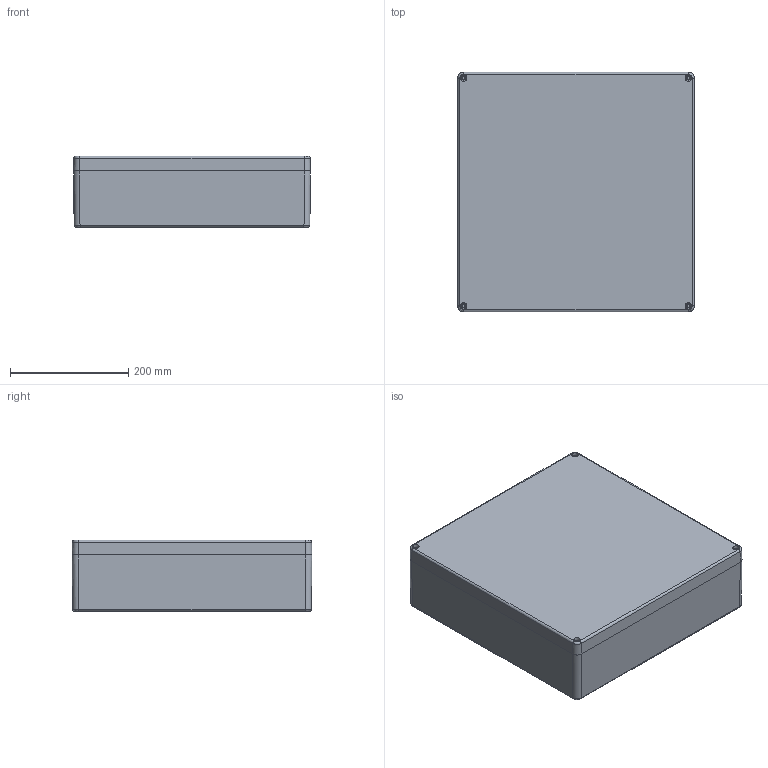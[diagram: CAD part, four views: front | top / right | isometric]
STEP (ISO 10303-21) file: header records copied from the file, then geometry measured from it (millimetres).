
FILE_DESCRIPTION (( 'STEP AP203' ), '1' );
FILE_NAME ('GRP ASSY 400405120.STEP', '2024-08-26T11:11:01', ( '' ), ( '' ), 'SwSTEP 2.0', 'SolidWorks 2018', '' );
FILE_SCHEMA (( 'CONFIG_CONTROL_DESIGN' ));
Length unit declared in the file: millimetre
Products named in the file (5): GRP BASE 400405120; M6 BOTTOM INSERT; GRP ASSY 400405120; GRP LID 400405120; M6 SS TOP INSERT
Assembly tree (12 placements, depth 2):
  GRP ASSY 400405120
    GRP BASE 400405120
    GRP LID 400405120
    M6 BOTTOM INSERT  x6
    M6 SS TOP INSERT  x4
Bounding box: 400 x 405 x 121 mm (x, y, z)
Volume: 3049058.9 mm3; surface area: 1035858.8 mm2
Topology: 12 solids, 12 shells, 1158 faces, 2793 edges, 1737 vertices
Faces by surface type: plane 434, cylinder 288, bspline 212, cone 184, torus 40
Entity records: 34922 total; most frequent: CARTESIAN_POINT 15853, ORIENTED_EDGE 4010, DIRECTION 3436, EDGE_CURVE 2005, VERTEX_POINT 1257, AXIS2_PLACEMENT_3D 1201, LINE 1034, VECTOR 1034
